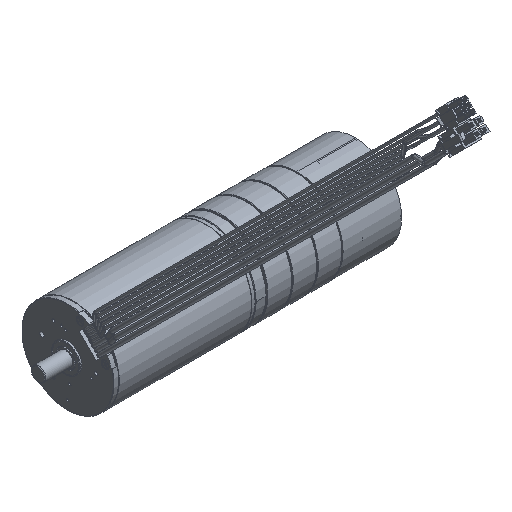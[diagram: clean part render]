
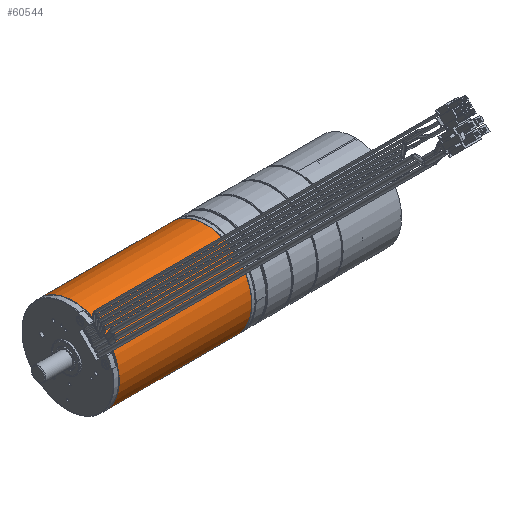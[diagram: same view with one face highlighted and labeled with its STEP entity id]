
A CAD part, isometric view. The second image highlights one B-rep face of the part: STEP entity #60544.
In plain terms, the highlighted cylindrical face has radius 26 mm (diameter 52 mm), a partial arc.
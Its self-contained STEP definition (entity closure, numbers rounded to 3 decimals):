
#2509 = CYLINDRICAL_SURFACE ( 'NONE', #13662, 26. ) ;
#6322 = EDGE_LOOP ( 'NONE', ( #20285, #7324, #8025, #23739 ) ) ;
#6757 = LINE ( 'NONE', #55348, #68035 ) ;
#7324 = ORIENTED_EDGE ( 'NONE', *, *, #54458, .T. ) ;
#8025 = ORIENTED_EDGE ( 'NONE', *, *, #27148, .T. ) ;
#13662 = AXIS2_PLACEMENT_3D ( 'NONE', #78378, #24326, #78650 ) ;
#18240 = DIRECTION ( 'NONE',  ( -1., 0., 0. ) ) ;
#20106 = CARTESIAN_POINT ( 'NONE',  ( 2.1, 0., 26. ) ) ;
#20285 = ORIENTED_EDGE ( 'NONE', *, *, #43623, .F. ) ;
#23172 = VERTEX_POINT ( 'NONE', #27982 ) ;
#23739 = ORIENTED_EDGE ( 'NONE', *, *, #75690, .T. ) ;
#24326 = DIRECTION ( 'NONE',  ( 1., 0., 0. ) ) ;
#27005 = FACE_OUTER_BOUND ( 'NONE', #6322, .T. ) ;
#27148 = EDGE_CURVE ( 'NONE', #43207, #23172, #32662, .T. ) ;
#27982 = CARTESIAN_POINT ( 'NONE',  ( 76.9, 0., -26. ) ) ;
#31644 = CARTESIAN_POINT ( 'NONE',  ( 2.1, 0., 0. ) ) ;
#32568 = VECTOR ( 'NONE', #64714, 1000. ) ;
#32662 = LINE ( 'NONE', #46610, #32568 ) ;
#37834 = DIRECTION ( 'NONE',  ( 0., 0., -1. ) ) ;
#39946 = CARTESIAN_POINT ( 'NONE',  ( 76.9, 0., 26. ) ) ;
#43207 = VERTEX_POINT ( 'NONE', #69671 ) ;
#43623 = EDGE_CURVE ( 'NONE', #67354, #68256, #6757, .T. ) ;
#46610 = CARTESIAN_POINT ( 'NONE',  ( -25.84, 0., -26. ) ) ;
#46774 = CIRCLE ( 'NONE', #73002, 26. ) ;
#54458 = EDGE_CURVE ( 'NONE', #67354, #43207, #58236, .T. ) ;
#54946 = CARTESIAN_POINT ( 'NONE',  ( 76.9, 0., 0. ) ) ;
#55348 = CARTESIAN_POINT ( 'NONE',  ( -25.84, 0., 26. ) ) ;
#58236 = CIRCLE ( 'NONE', #78021, 26. ) ;
#60544 = ADVANCED_FACE ( 'NONE', ( #27005 ), #2509, .T. ) ;
#60901 = DIRECTION ( 'NONE',  ( 0., 0., -1. ) ) ;
#61288 = DIRECTION ( 'NONE',  ( 1., 0., 0. ) ) ;
#64714 = DIRECTION ( 'NONE',  ( 1., 0., 0. ) ) ;
#67354 = VERTEX_POINT ( 'NONE', #20106 ) ;
#68035 = VECTOR ( 'NONE', #61288, 1000. ) ;
#68256 = VERTEX_POINT ( 'NONE', #39946 ) ;
#69671 = CARTESIAN_POINT ( 'NONE',  ( 2.1, 0., -26. ) ) ;
#73002 = AXIS2_PLACEMENT_3D ( 'NONE', #54946, #18240, #60901 ) ;
#73697 = DIRECTION ( 'NONE',  ( 1., 0., 0. ) ) ;
#75690 = EDGE_CURVE ( 'NONE', #23172, #68256, #46774, .T. ) ;
#78021 = AXIS2_PLACEMENT_3D ( 'NONE', #31644, #73697, #37834 ) ;
#78378 = CARTESIAN_POINT ( 'NONE',  ( -25.84, 0., 0. ) ) ;
#78650 = DIRECTION ( 'NONE',  ( 0., 0., -1. ) ) ;
